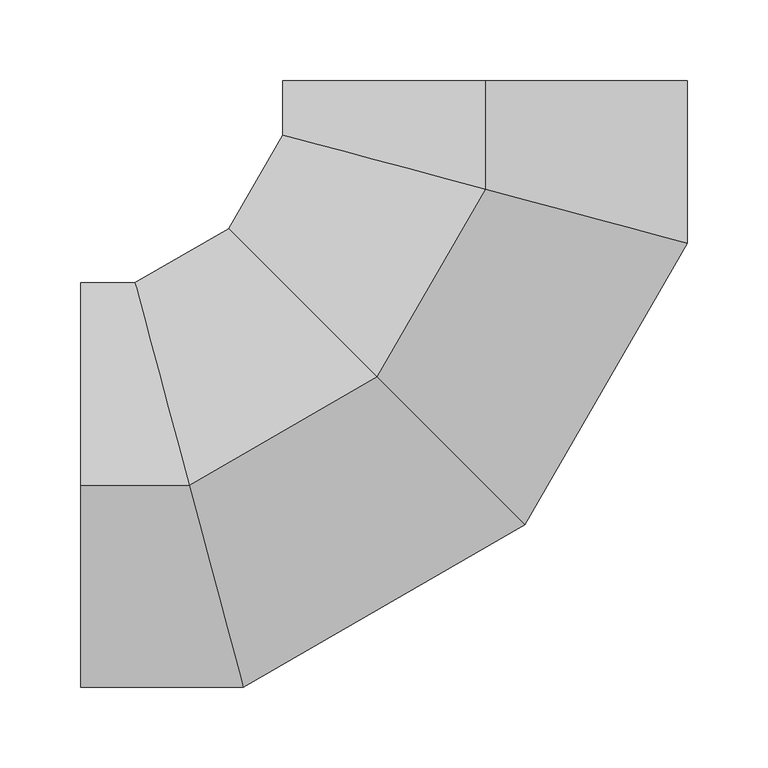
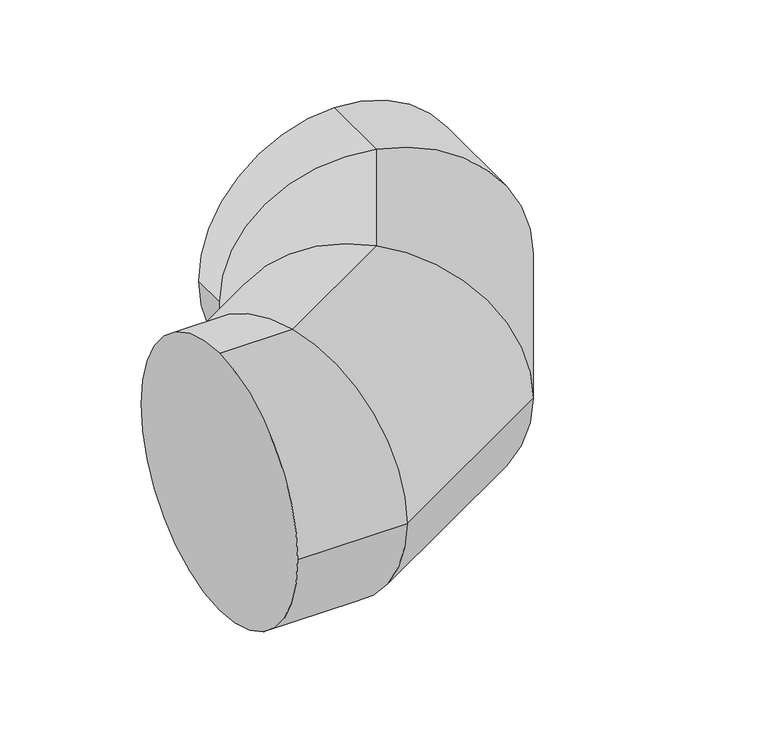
"""IFC4 building model written with IfcOpenShell, lengths in millimetres: duct fitting geometry, ADSK_ОтводВоздуховодов_Круглый : Стандарт."""

from ifc_helpers import new_model, si_unit, frame, origin, place, context, project, spatial, circle_curve, ellipse_curve, source, transform, mapped, element, save
from ifc_brep_helpers import plane_surface, cylinder_surface, advanced_brep


def duct_fitting_1b364241(model_context):
    return source(origin(), model_context, "Body", "AdvancedBrep", [
        advanced_brep(
        [(-250.0, 0.0, 125.0), (-250.0, 125.0, 0.0), (-250.0, 0.0, -125.0), (-250.0, -125.0, 0.0), (-183.0127019, 0.0, 125.0), (-216.5063509, 125.0, 0.0), (-183.0127019, 0.0, -125.0), (-149.5190528, -125.0, 0.0), (-66.9872981, 66.9872981, 125.0), (-158.4936491, 158.4936491, 0.0), (-66.9872981, 66.9872981, -125.0), (24.5190528, -24.5190528, 0.0), (0.0, 183.0127019, 125.0), (-125.0, 216.5063509, 0.0), (0.0, 183.0127019, -125.0), (125.0, 149.5190528, 0.0), (0.0, 250.0, 125.0), (125.0, 250.0, 0.0), (0.0, 250.0, -125.0), (-125.0, 250.0, 0.0)],
        [
            (0, 1, circle_curve(frame((-250.0, 0.0, 0.0), z_axis=(-1.0, 0.0, 0.0), x_axis=(0.0, 1.0, 0.0)), 125.0)),
            (1, 2, circle_curve(frame((-250.0, 0.0, 0.0), z_axis=(-1.0, 0.0, 0.0), x_axis=(0.0, 1.0, 0.0)), 125.0)),
            (2, 3, circle_curve(frame((-250.0, 0.0, 0.0), z_axis=(-1.0, 0.0, 0.0), x_axis=(0.0, 1.0, 0.0)), 125.0)),
            (3, 0, circle_curve(frame((-250.0, 0.0, 0.0), z_axis=(-1.0, 0.0, 0.0), x_axis=(0.0, 1.0, 0.0)), 125.0)),
            (0, 4),
            (4, 5, ellipse_curve(frame((-183.0127019, 0.0, 0.0), z_axis=(-0.9659258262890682, -0.2588190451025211, 0.0), x_axis=(-0.2588190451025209, 0.9659258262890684, 0.0)), 129.4095226, 125.0)),
            (5, 1),
            (5, 6, ellipse_curve(frame((-183.0127019, 0.0, 0.0), z_axis=(-0.9659258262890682, -0.2588190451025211, 0.0), x_axis=(-0.2588190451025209, 0.9659258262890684, 0.0)), 129.4095226, 125.0)),
            (6, 2),
            (6, 7, ellipse_curve(frame((-183.0127019, 0.0, 0.0), z_axis=(-0.9659258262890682, -0.2588190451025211, 0.0), x_axis=(-0.2588190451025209, 0.9659258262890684, 0.0)), 129.4095226, 125.0)),
            (7, 3),
            (7, 4, ellipse_curve(frame((-183.0127019, 0.0, 0.0), z_axis=(-0.9659258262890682, -0.2588190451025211, 0.0), x_axis=(-0.2588190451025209, 0.9659258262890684, 0.0)), 129.4095226, 125.0)),
            (4, 8),
            (8, 9, ellipse_curve(frame((-66.9872981, 66.9872981, 0.0), z_axis=(-0.7071067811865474, -0.7071067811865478, 0.0), x_axis=(-0.7071067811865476, 0.7071067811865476, 0.0)), 129.4095226, 125.0)),
            (9, 5),
            (9, 10, ellipse_curve(frame((-66.9872981, 66.9872981, 0.0), z_axis=(-0.7071067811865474, -0.7071067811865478, 0.0), x_axis=(-0.7071067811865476, 0.7071067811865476, 0.0)), 129.4095226, 125.0)),
            (10, 6),
            (10, 11, ellipse_curve(frame((-66.9872981, 66.9872981, 0.0), z_axis=(-0.7071067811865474, -0.7071067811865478, 0.0), x_axis=(-0.7071067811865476, 0.7071067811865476, 0.0)), 129.4095226, 125.0)),
            (11, 7),
            (11, 8, ellipse_curve(frame((-66.9872981, 66.9872981, 0.0), z_axis=(-0.7071067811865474, -0.7071067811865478, 0.0), x_axis=(-0.7071067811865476, 0.7071067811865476, 0.0)), 129.4095226, 125.0)),
            (8, 12),
            (12, 13, ellipse_curve(frame((0.0, 183.0127019, 0.0), z_axis=(-0.25881904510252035, -0.9659258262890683, 0.0), x_axis=(-0.9659258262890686, 0.2588190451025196, 0.0)), 129.4095226, 125.0)),
            (13, 9),
            (13, 14, ellipse_curve(frame((0.0, 183.0127019, 0.0), z_axis=(-0.25881904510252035, -0.9659258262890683, 0.0), x_axis=(-0.9659258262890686, 0.2588190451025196, 0.0)), 129.4095226, 125.0)),
            (14, 10),
            (14, 15, ellipse_curve(frame((0.0, 183.0127019, 0.0), z_axis=(-0.25881904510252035, -0.9659258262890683, 0.0), x_axis=(-0.9659258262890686, 0.2588190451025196, 0.0)), 129.4095226, 125.0)),
            (15, 11),
            (15, 12, ellipse_curve(frame((0.0, 183.0127019, 0.0), z_axis=(-0.25881904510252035, -0.9659258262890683, 0.0), x_axis=(-0.9659258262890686, 0.2588190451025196, 0.0)), 129.4095226, 125.0)),
            (16, 17, circle_curve(frame((0.0, 250.0, 0.0), z_axis=(0.0, 1.0, 0.0), x_axis=(-1.0, 0.0, 0.0)), 125.0)),
            (17, 18, circle_curve(frame((0.0, 250.0, 0.0), z_axis=(0.0, 1.0, 0.0), x_axis=(-1.0, 0.0, 0.0)), 125.0)),
            (18, 19, circle_curve(frame((0.0, 250.0, 0.0), z_axis=(0.0, 1.0, 0.0), x_axis=(-1.0, 0.0, 0.0)), 125.0)),
            (19, 16, circle_curve(frame((0.0, 250.0, 0.0), z_axis=(0.0, 1.0, 0.0), x_axis=(-1.0, 0.0, 0.0)), 125.0)),
            (12, 16),
            (19, 13),
            (18, 14),
            (17, 15),
        ],
        [
            plane_surface(frame((-250.0, 0.0, 0.0), z_axis=(-1.0, 0.0, 0.0), x_axis=(0.0, 0.0, 1.0))),
            cylinder_surface(frame((-250.0, 0.0, 0.0), z_axis=(-1.0, 0.0, 0.0), x_axis=(0.0, 1.0, 0.0)), 125.0),
            cylinder_surface(frame((-183.0127019, 0.0, 0.0), z_axis=(-0.8660254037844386, -0.5000000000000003, 0.0), x_axis=(-0.5000000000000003, 0.8660254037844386, 0.0)), 125.0),
            cylinder_surface(frame((-66.9872981, 66.9872981, 0.0), z_axis=(-0.49999999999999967, -0.8660254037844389, 0.0), x_axis=(-0.8660254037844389, 0.49999999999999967, 0.0)), 125.0),
            plane_surface(frame((0.0, 250.0, 0.0), z_axis=(0.0, 1.0, 0.0), x_axis=(0.0, 0.0, 1.0))),
            cylinder_surface(frame((0.0, 183.0127019, 0.0), z_axis=(0.0, -1.0, 0.0), x_axis=(-1.0, 0.0, 0.0)), 125.0),
        ],
        [
            (0, [[1, 2, 3, 4]]),
            (1, [[-1, 5, 6, 7]]),
            (1, [[-2, -7, 8, 9]]),
            (1, [[-3, -9, 10, 11]]),
            (1, [[-4, -11, 12, -5]]),
            (2, [[-6, 13, 14, 15]]),
            (2, [[-8, -15, 16, 17]]),
            (2, [[-10, -17, 18, 19]]),
            (2, [[-12, -19, 20, -13]]),
            (3, [[-14, 21, 22, 23]]),
            (3, [[-16, -23, 24, 25]]),
            (3, [[-18, -25, 26, 27]]),
            (3, [[-20, -27, 28, -21]]),
            (4, [[29, 30, 31, 32]]),
            (5, [[-22, 33, -32, 34]]),
            (5, [[-24, -34, -31, 35]]),
            (5, [[-26, -35, -30, 36]]),
            (5, [[-28, -36, -29, -33]]),
        ],
    ),
    ])


if __name__ == "__main__":
    model = new_model("IFC4")
    model_context = context("Model", 3, world=origin())
    ifc_project = project(units=[si_unit("LENGTHUNIT", "METRE", prefix="MILLI")], contexts=[model_context])
    site = spatial("IfcSite", under=ifc_project)
    building = spatial("IfcBuilding", under=site)
    placement = place(None, origin())
    duct_fitting_shape = duct_fitting_1b364241(model_context)
    element("IfcDuctFitting", 1, ObjectType="ADSK_ОтводВоздуховодов_Круглый : Стандарт", at=placement, inside=building, context=model_context, shape_type="MappedRepresentation", body=[
        mapped(duct_fitting_shape, transform((0.0, 0.0, 0.0), x_axis=(1.0, 0.0, 0.0), y_axis=(0.0, 1.0, 0.0), z_axis=(0.0, 0.0, 1.0))),
    ])
    save(model, "model.ifc")
